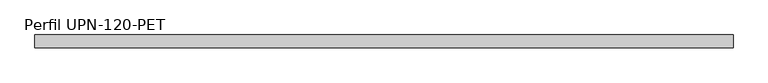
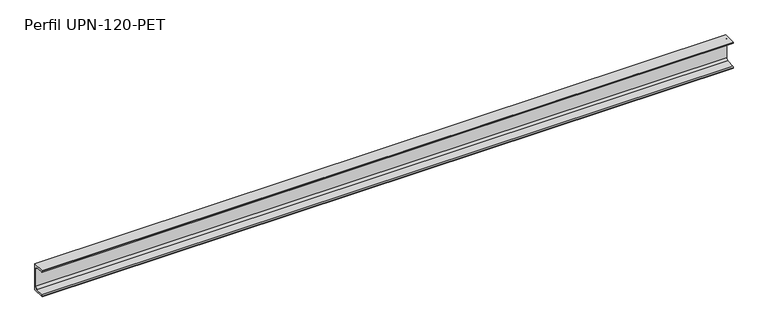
"""IFC4 building model written with IfcOpenShell, lengths in millimetres: beam geometry, ARES-I-AC-UPN-Perfil acero-PET : Perfil UPN-120-PET."""

from ifc_helpers import new_model, si_unit, point, frame, frame_2d, origin, place, context, project, spatial, polyline, circle_curve, trimmed, segment, composite_curve, outline, extrude, source, transform, mapped, element, save


def perfil_upn_120_pet_e785cb7a(model_context):
    return source(origin(), model_context, "Body", "SweptSolid", [
        extrude(outline(composite_curve([segment(polyline([(16.0, 60.0), (16.0, -60.0), (-39.0, -60.0), (-39.0, -57.354377)]), True, "CONTINUOUS"), segment(trimmed(circle_curve(frame_2d((-34.5, -57.354377)), 4.5), [point((-39.0, -57.354377))], [point((-34.8588535, -52.8687083))], False, "CARTESIAN"), True, "CONTINUOUS"), segment(polyline([(-34.8588535, -52.8687083), (0.717707, -50.0225834)]), True, "CONTINUOUS"), segment(trimmed(circle_curve(frame_2d((0.0, -41.0512459)), 9.0), [point((0.717707, -50.0225834))], [point((9.0, -41.0512459))], True, "CARTESIAN"), True, "CONTINUOUS"), segment(polyline([(9.0, -41.0512459), (9.0, 41.0512459)]), True, "CONTINUOUS"), segment(trimmed(circle_curve(frame_2d((0.0, 41.0512459)), 9.0), [point((9.0, 41.0512459))], [point((0.717707, 50.0225834))], True, "CARTESIAN"), True, "CONTINUOUS"), segment(polyline([(0.717707, 50.0225834), (-34.8588535, 52.8687083)]), True, "CONTINUOUS"), segment(trimmed(circle_curve(frame_2d((-34.5, 57.354377)), 4.5), [point((-34.8588535, 52.8687083))], [point((-39.0, 57.354377))], False, "CARTESIAN"), True, "CONTINUOUS"), segment(polyline([(-39.0, 57.354377), (-39.0, 60.0), (16.0, 60.0)]), True, "CONTINUOUS")], self_intersect=False)), frame((-1510.0, 0.0, 0.0), z_axis=(1.0, 0.0, 0.0), x_axis=(0.0, 1.0, 0.0)), (0.0, 0.0, 1.0), 3020.0),
    ])


if __name__ == "__main__":
    model = new_model("IFC4")
    model_context = context("Model", 3, world=origin())
    ifc_project = project(units=[si_unit("LENGTHUNIT", "METRE", prefix="MILLI")], contexts=[model_context])
    site = spatial("IfcSite", under=ifc_project)
    building = spatial("IfcBuilding", under=site)
    placement = place(None, origin())
    perfil_upn_120_pet_shape = perfil_upn_120_pet_e785cb7a(model_context)
    element("IfcBeam", 1, ObjectType="ARES-I-AC-UPN-Perfil acero-PET : Perfil UPN-120-PET", at=placement, inside=building, context=model_context, shape_type="MappedRepresentation", body=[
        mapped(perfil_upn_120_pet_shape, transform((0.0, 0.0, 0.0), x_axis=(1.0, 0.0, 0.0), y_axis=(0.0, 1.0, 0.0), z_axis=(0.0, 0.0, 1.0))),
    ])
    save(model, "model.ifc")
